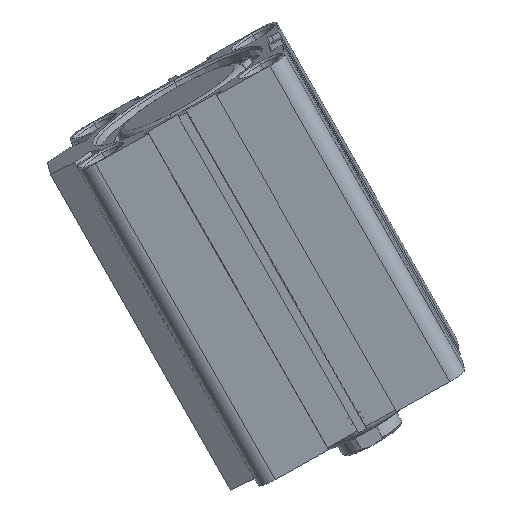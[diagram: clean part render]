
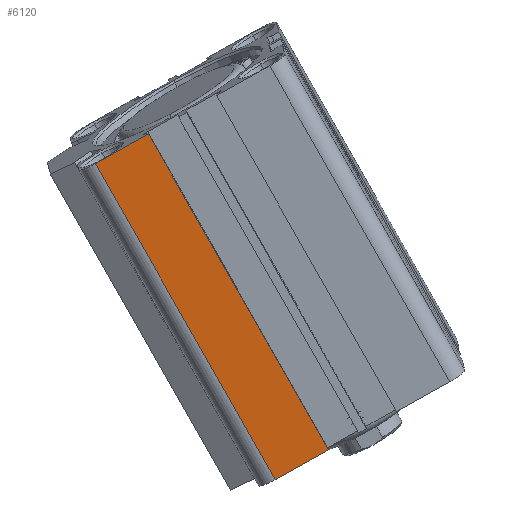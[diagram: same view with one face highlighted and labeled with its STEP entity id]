
A CAD part, left-side view. The second image highlights one B-rep face of the part: STEP entity #6120.
In plain terms, the highlighted planar face has unit normal (-0.987, -0.042, -0.158) as drawn and (-1, 0, 0) by its records, which use the part's own axes.
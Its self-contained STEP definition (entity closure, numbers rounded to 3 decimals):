
#372 = EDGE_CURVE ( 'NONE', #10402, #2044, #18096, .T. ) ;
#1726 = VERTEX_POINT ( 'NONE', #3864 ) ;
#2044 = VERTEX_POINT ( 'NONE', #12286 ) ;
#3283 = DIRECTION ( 'NONE',  ( 0., -1., 0. ) ) ;
#3864 = CARTESIAN_POINT ( 'NONE',  ( -26., 8.6, 0. ) ) ;
#4432 = DIRECTION ( 'NONE',  ( 0., 1., 0. ) ) ;
#4823 = VECTOR ( 'NONE', #11466, 1000. ) ;
#5032 = EDGE_CURVE ( 'NONE', #6662, #1726, #16442, .T. ) ;
#5458 = VECTOR ( 'NONE', #4432, 1000. ) ;
#6120 = ADVANCED_FACE ( 'NONE', ( #19705 ), #6358, .T. ) ;
#6358 = PLANE ( 'NONE',  #14914 ) ;
#6662 = VERTEX_POINT ( 'NONE', #13602 ) ;
#6720 = CARTESIAN_POINT ( 'NONE',  ( -26., 22., 81. ) ) ;
#7034 = ORIENTED_EDGE ( 'NONE', *, *, #5032, .F. ) ;
#7514 = ORIENTED_EDGE ( 'NONE', *, *, #372, .T. ) ;
#7627 = DIRECTION ( 'NONE',  ( 0., 1., 0. ) ) ;
#7678 = CARTESIAN_POINT ( 'NONE',  ( -26., 0., 0. ) ) ;
#8137 = EDGE_LOOP ( 'NONE', ( #8241, #7034, #14546, #7514 ) ) ;
#8241 = ORIENTED_EDGE ( 'NONE', *, *, #15556, .F. ) ;
#9070 = VECTOR ( 'NONE', #7627, 1000. ) ;
#10402 = VERTEX_POINT ( 'NONE', #19273 ) ;
#10970 = DIRECTION ( 'NONE',  ( 0., 0., -1. ) ) ;
#11466 = DIRECTION ( 'NONE',  ( 0., 0., -1. ) ) ;
#12286 = CARTESIAN_POINT ( 'NONE',  ( -26., 22., 0. ) ) ;
#12580 = DIRECTION ( 'NONE',  ( -1., 0., 0. ) ) ;
#13602 = CARTESIAN_POINT ( 'NONE',  ( -26., 8.6, 81. ) ) ;
#13815 = CARTESIAN_POINT ( 'NONE',  ( -26., 0., 81. ) ) ;
#14546 = ORIENTED_EDGE ( 'NONE', *, *, #18367, .T. ) ;
#14914 = AXIS2_PLACEMENT_3D ( 'NONE', #19000, #12580, #3283 ) ;
#15514 = LINE ( 'NONE', #13815, #9070 ) ;
#15556 = EDGE_CURVE ( 'NONE', #1726, #2044, #19293, .T. ) ;
#16337 = VECTOR ( 'NONE', #10970, 1000. ) ;
#16442 = LINE ( 'NONE', #18986, #16337 ) ;
#18096 = LINE ( 'NONE', #6720, #4823 ) ;
#18367 = EDGE_CURVE ( 'NONE', #6662, #10402, #15514, .T. ) ;
#18986 = CARTESIAN_POINT ( 'NONE',  ( -26., 8.6, 81. ) ) ;
#19000 = CARTESIAN_POINT ( 'NONE',  ( -26., 0., 81. ) ) ;
#19273 = CARTESIAN_POINT ( 'NONE',  ( -26., 22., 81. ) ) ;
#19293 = LINE ( 'NONE', #7678, #5458 ) ;
#19705 = FACE_OUTER_BOUND ( 'NONE', #8137, .T. ) ;
